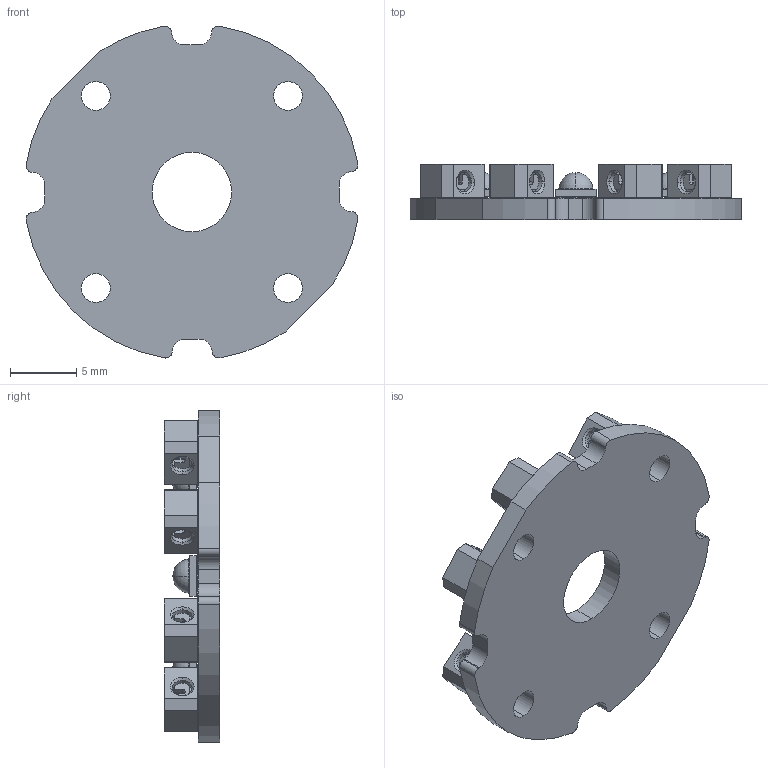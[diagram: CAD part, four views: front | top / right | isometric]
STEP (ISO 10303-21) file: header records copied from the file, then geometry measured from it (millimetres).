
FILE_DESCRIPTION (( 'STEP AP214' ), '1' );
FILE_NAME ('SW-08.STEP', '2023-11-14T03:06:25', ( '' ), ( '' ), 'SwSTEP 2.0', 'SolidWorks 2021', '' );
FILE_SCHEMA (( 'AUTOMOTIVE_DESIGN' ));
Length unit declared in the file: millimetre
Products named in the file (1): SW-08
Bounding box: 25.09 x 4.18 x 25.09 mm (x, y, z)
Volume: 926.4 mm3; surface area: 2151.8 mm2
Topology: 21 solids, 21 shells, 2048 faces, 5424 edges, 3540 vertices
Faces by surface type: plane 1396, cylinder 379, bspline 193, cone 32, torus 24, sphere 24
Entity records: 78591 total; most frequent: CARTESIAN_POINT 19618, ORIENTED_EDGE 10792, DIRECTION 9556, EDGE_CURVE 5396, VECTOR 4176, LINE 4176, VERTEX_POINT 3536, AXIS2_PLACEMENT_3D 2690
